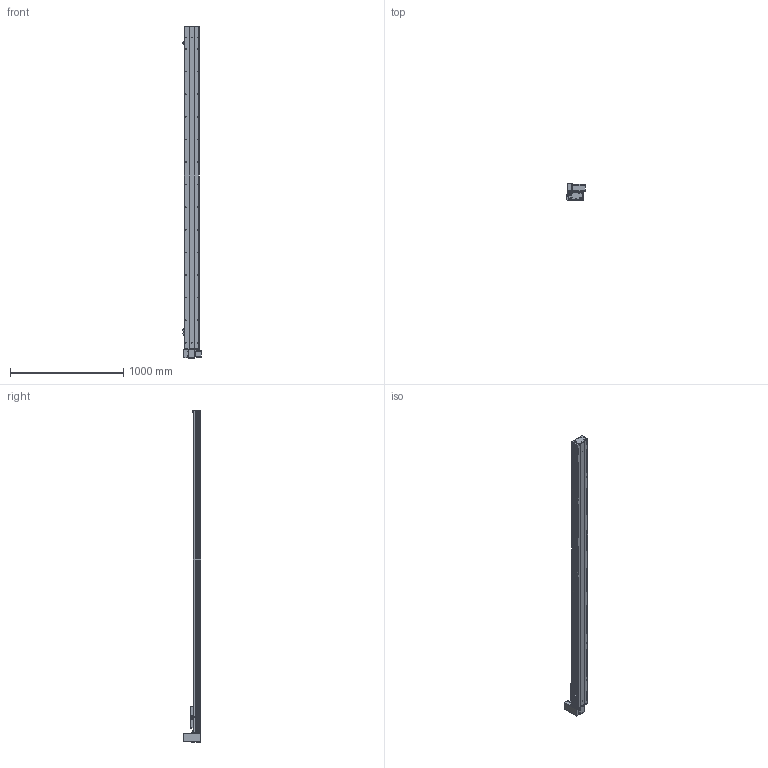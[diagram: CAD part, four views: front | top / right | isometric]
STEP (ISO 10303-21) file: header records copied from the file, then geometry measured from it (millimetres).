
FILE_DESCRIPTION (( 'STEP AP203' ), '1' );
FILE_NAME ('Y135CB-D90-S2550-UR-P400W.STEP', '2020-02-18T06:38:18', ( '微软用户' ), ( '微软中国' ), 'SwSTEP 2.0', 'SolidWorks 2017', '' );
FILE_SCHEMA (( 'CONFIG_CONTROL_DESIGN' ));
Length unit declared in the file: millimetre
Products named in the file (18): 135CB--詩湍-CE; 135CB---遴掛极.-; Y100-135俋离換覜ん--; 35CB---喘謫眊楊擘啣; Y135C-陔俋离換覜結え-; 0B-埴倛裔啣; 5C--俋欶; 0B-源倛裔啣; C-雄赽釱--; 0B-萇儂楊擘啣; Y10B--々湍喘謫眊--666; san松下电机400不带刹车----; Y10B-耜蚾蟀諉啣----; 5CB --掛极耜裔啣-; Y135CB-D90-S2550-UR-P400W; 00B-俋欶BM--; C-詩湍揤踡え-陔; Y135CB-耜裔
Assembly tree (21 placements, depth 2):
  Y135CB-D90-S2550-UR-P400W
    Y135CB-耜裔
    135CB---遴掛极.-
    35CB---喘謫眊楊擘啣
    0B-埴倛裔啣
    0B-源倛裔啣
    0B-萇儂楊擘啣
    san松下电机400不带刹车----
    5CB --掛极耜裔啣-  x2
    C-詩湍揤踡え-陔  x2
    135CB--詩湍-CE
    Y100-135俋离換覜ん--  x3
    Y135C-陔俋离換覜結え-
    5C--俋欶
    C-雄赽釱--
    Y10B--々湍喘謫眊--666
    Y10B-耜蚾蟀諉啣----
    00B-俋欶BM--
Bounding box: 167.5 x 158.7 x 2938 mm (x, y, z)
Volume: 8411608.2 mm3; surface area: 3332155.4 mm2
Topology: 21 solids, 21 shells, 977 faces, 2671 edges, 1770 vertices
Faces by surface type: cylinder 505, plane 456, cone 16
Entity records: 30965 total; most frequent: CARTESIAN_POINT 5164, DIRECTION 5147, ORIENTED_EDGE 4818, EDGE_CURVE 2409, AXIS2_PLACEMENT_3D 1889, VERTEX_POINT 1598, VECTOR 1369, LINE 1369
